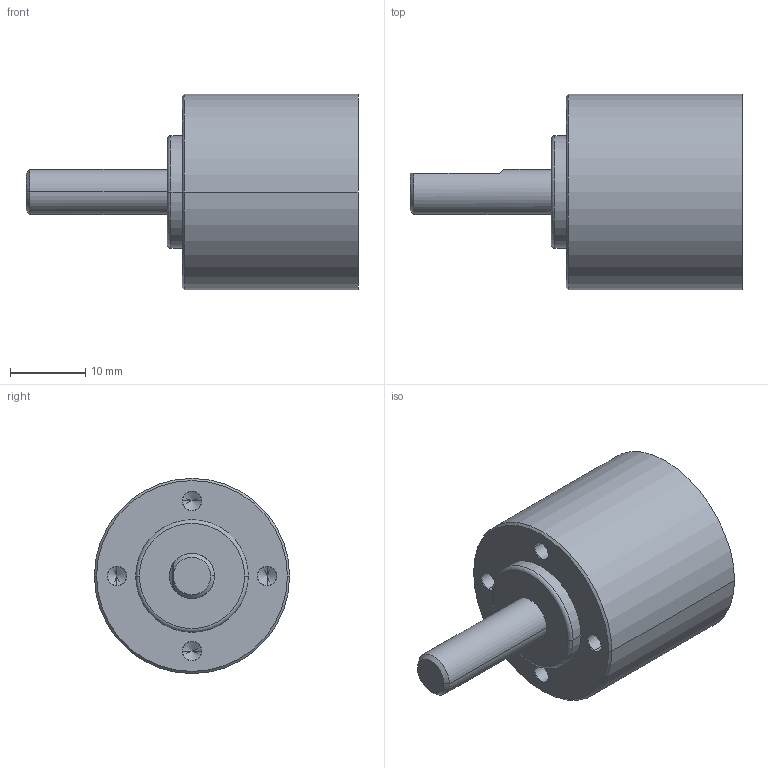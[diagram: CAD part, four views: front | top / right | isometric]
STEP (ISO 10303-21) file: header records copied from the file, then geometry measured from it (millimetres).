
FILE_DESCRIPTION((''),'2;1');
FILE_NAME('1236592','2016-10-07T',('mmagpetk'),(''),'CREO PARAMETRIC BY PTC INC, 2016050','CREO PARAMETRIC BY PTC INC, 2016050','');
FILE_SCHEMA(('CONFIG_CONTROL_DESIGN'));
Length unit declared in the file: millimetre
Products named in the file (1): 1236592
Bounding box: 44.2 x 26 x 26 mm (x, y, z)
Volume: 11221.5 mm3; surface area: 3913.9 mm2
Topology: 1 solids, 1 shells, 53 faces, 115 edges, 64 vertices
Faces by surface type: cone 22, cylinder 21, plane 8, torus 2
Entity records: 1498 total; most frequent: DIRECTION 263, CARTESIAN_POINT 249, ORIENTED_EDGE 214, AXIS2_PLACEMENT_3D 109, EDGE_CURVE 107, VERTEX_POINT 64, EDGE_LOOP 61, COLOUR_RGB 58
